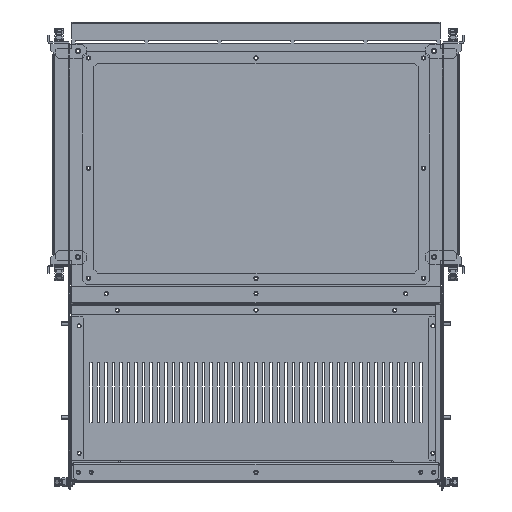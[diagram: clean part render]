
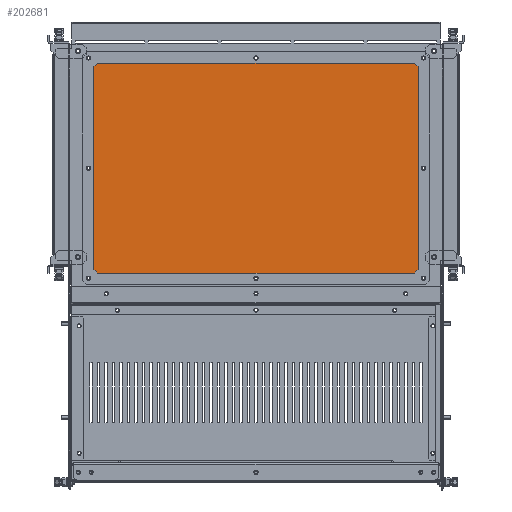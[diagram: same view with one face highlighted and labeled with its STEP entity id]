
A CAD part, top view. The second image highlights one B-rep face of the part: STEP entity #202681.
In plain terms, the highlighted planar face has unit normal (0, 0, 1).
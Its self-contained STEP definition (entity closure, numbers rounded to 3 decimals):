
#200526=CARTESIAN_POINT(' ',(-2.75,-147.,0.));
#200527=VERTEX_POINT(' ',#200526);
#200541=CARTESIAN_POINT(' ',(0.,-147.,0.));
#200546=DIRECTION(' ',(0.,-0.,1.));
#200551=DIRECTION(' ',(-1.,0.,0.));
#200556=AXIS2_PLACEMENT_3D(' ',#200541,#200546,#200551);
#200561=CIRCLE('',#200556,2.75);
#200566=CARTESIAN_POINT(' ',(2.75,-147.,0.));
#200567=VERTEX_POINT(' ',#200566);
#200571=EDGE_CURVE(' ',#200527,#200567,#200561,.T.);
#201666=CARTESIAN_POINT(' ',(0.,-147.,0.));
#201671=DIRECTION(' ',(0.,0.,1.));
#201676=DIRECTION(' ',(1.,0.,0.));
#201681=AXIS2_PLACEMENT_3D(' ',#201666,#201671,#201676);
#201686=CIRCLE('',#201681,2.75);
#201691=EDGE_CURVE(' ',#200567,#200527,#201686,.T.);
#201716=DIRECTION(' ',(-0.,-0.,1.));
#201721=CARTESIAN_POINT(' ',(231.5,-155.,0.));
#201726=DIRECTION(' ',(0.,1.,0.));
#201731=AXIS2_PLACEMENT_3D(' ',#201721,#201716,#201726);
#201736=PLANE('NONE',#201731);
#201741=CARTESIAN_POINT(' ',(226.5,155.,0.));
#201746=DIRECTION(' ',(-1.,0.,0.));
#201751=VECTOR(' ',#201746,1.);
#201756=LINE('',#201741,#201751);
#201761=CARTESIAN_POINT(' ',(226.5,155.,0.));
#201762=VERTEX_POINT(' ',#201761);
#201766=CARTESIAN_POINT(' ',(-226.5,155.,0.));
#201767=VERTEX_POINT(' ',#201766);
#201771=EDGE_CURVE(' ',#201762,#201767,#201756,.T.);
#201776=ORIENTED_EDGE(' ',*,*,#201771,.T.);
#201781=CARTESIAN_POINT(' ',(-226.5,155.,0.));
#201786=DIRECTION(' ',(-0.707,-0.707,0.));
#201791=VECTOR(' ',#201786,1.);
#201796=LINE('',#201781,#201791);
#201801=CARTESIAN_POINT(' ',(-231.5,150.,0.));
#201802=VERTEX_POINT(' ',#201801);
#201806=EDGE_CURVE(' ',#201767,#201802,#201796,.T.);
#201811=ORIENTED_EDGE(' ',*,*,#201806,.T.);
#201816=CARTESIAN_POINT(' ',(-231.5,150.,0.));
#201821=DIRECTION(' ',(0.,-1.,0.));
#201826=VECTOR(' ',#201821,1.);
#201831=LINE('',#201816,#201826);
#201836=CARTESIAN_POINT(' ',(-231.5,-150.,0.));
#201837=VERTEX_POINT(' ',#201836);
#201841=EDGE_CURVE(' ',#201802,#201837,#201831,.T.);
#201846=ORIENTED_EDGE(' ',*,*,#201841,.T.);
#201851=CARTESIAN_POINT(' ',(-231.5,-150.,0.));
#201856=DIRECTION(' ',(0.707,-0.707,0.));
#201861=VECTOR(' ',#201856,1.);
#201866=LINE('',#201851,#201861);
#201871=CARTESIAN_POINT(' ',(-226.5,-155.,0.));
#201872=VERTEX_POINT(' ',#201871);
#201876=EDGE_CURVE(' ',#201837,#201872,#201866,.T.);
#201881=ORIENTED_EDGE(' ',*,*,#201876,.T.);
#201886=CARTESIAN_POINT(' ',(-226.5,-155.,0.));
#201891=DIRECTION(' ',(1.,0.,0.));
#201896=VECTOR(' ',#201891,1.);
#201901=LINE('',#201886,#201896);
#201906=CARTESIAN_POINT(' ',(226.5,-155.,0.));
#201907=VERTEX_POINT(' ',#201906);
#201911=EDGE_CURVE(' ',#201872,#201907,#201901,.T.);
#201916=ORIENTED_EDGE(' ',*,*,#201911,.T.);
#201921=CARTESIAN_POINT(' ',(226.5,-155.,0.));
#201926=DIRECTION(' ',(0.707,0.707,0.));
#201931=VECTOR(' ',#201926,1.);
#201936=LINE('',#201921,#201931);
#201941=CARTESIAN_POINT(' ',(231.5,-150.,0.));
#201942=VERTEX_POINT(' ',#201941);
#201946=EDGE_CURVE(' ',#201907,#201942,#201936,.T.);
#201951=ORIENTED_EDGE(' ',*,*,#201946,.T.);
#201956=CARTESIAN_POINT(' ',(231.5,-150.,0.));
#201961=DIRECTION(' ',(0.,1.,0.));
#201966=VECTOR(' ',#201961,1.);
#201971=LINE('',#201956,#201966);
#201976=CARTESIAN_POINT(' ',(231.5,150.,0.));
#201977=VERTEX_POINT(' ',#201976);
#201981=EDGE_CURVE(' ',#201942,#201977,#201971,.T.);
#201986=ORIENTED_EDGE(' ',*,*,#201981,.T.);
#201991=CARTESIAN_POINT(' ',(231.5,150.,0.));
#201996=DIRECTION(' ',(-0.707,0.707,0.));
#202001=VECTOR(' ',#201996,1.);
#202006=LINE('',#201991,#202001);
#202011=EDGE_CURVE(' ',#201977,#201762,#202006,.T.);
#202016=ORIENTED_EDGE(' ',*,*,#202011,.T.);
#202021=EDGE_LOOP(' ',(#201776,#201811,#201846,#201881,#201916,#201951,#201986,#202016));
#202026=FACE_OUTER_BOUND(' ',#202021,.T.);
#202031=ORIENTED_EDGE(' ',*,*,#201691,.F.);
#202036=ORIENTED_EDGE(' ',*,*,#200571,.F.);
#202041=EDGE_LOOP(' ',(#202031,#202036));
#202046=FACE_BOUND(' ',#202041,.T.);
#202051=CARTESIAN_POINT(' ',(-223.5,0.,0.));
#202056=DIRECTION(' ',(0.,0.,1.));
#202061=DIRECTION(' ',(1.,0.,0.));
#202066=AXIS2_PLACEMENT_3D(' ',#202051,#202056,#202061);
#202071=CIRCLE('',#202066,2.75);
#202076=CARTESIAN_POINT(' ',(-220.75,0.,0.));
#202077=VERTEX_POINT(' ',#202076);
#202081=CARTESIAN_POINT(' ',(-226.25,0.,0.));
#202082=VERTEX_POINT(' ',#202081);
#202086=EDGE_CURVE(' ',#202077,#202082,#202071,.T.);
#202091=ORIENTED_EDGE(' ',*,*,#202086,.F.);
#202096=CARTESIAN_POINT(' ',(-223.5,0.,0.));
#202101=DIRECTION(' ',(0.,-0.,1.));
#202106=DIRECTION(' ',(-1.,0.,0.));
#202111=AXIS2_PLACEMENT_3D(' ',#202096,#202101,#202106);
#202116=CIRCLE('',#202111,2.75);
#202121=EDGE_CURVE(' ',#202082,#202077,#202116,.T.);
#202126=ORIENTED_EDGE(' ',*,*,#202121,.F.);
#202131=EDGE_LOOP(' ',(#202091,#202126));
#202136=FACE_BOUND(' ',#202131,.T.);
#202141=CARTESIAN_POINT(' ',(-223.5,-147.,0.));
#202146=DIRECTION(' ',(0.,0.,1.));
#202151=DIRECTION(' ',(1.,0.,0.));
#202156=AXIS2_PLACEMENT_3D(' ',#202141,#202146,#202151);
#202161=CIRCLE('',#202156,2.75);
#202166=CARTESIAN_POINT(' ',(-220.75,-147.,0.));
#202167=VERTEX_POINT(' ',#202166);
#202171=CARTESIAN_POINT(' ',(-226.25,-147.,0.));
#202172=VERTEX_POINT(' ',#202171);
#202176=EDGE_CURVE(' ',#202167,#202172,#202161,.T.);
#202181=ORIENTED_EDGE(' ',*,*,#202176,.F.);
#202186=CARTESIAN_POINT(' ',(-223.5,-147.,0.));
#202191=DIRECTION(' ',(0.,-0.,1.));
#202196=DIRECTION(' ',(-1.,0.,0.));
#202201=AXIS2_PLACEMENT_3D(' ',#202186,#202191,#202196);
#202206=CIRCLE('',#202201,2.75);
#202211=EDGE_CURVE(' ',#202172,#202167,#202206,.T.);
#202216=ORIENTED_EDGE(' ',*,*,#202211,.F.);
#202221=EDGE_LOOP(' ',(#202181,#202216));
#202226=FACE_BOUND(' ',#202221,.T.);
#202231=CARTESIAN_POINT(' ',(223.5,-147.,0.));
#202236=DIRECTION(' ',(0.,0.,1.));
#202241=DIRECTION(' ',(1.,0.,0.));
#202246=AXIS2_PLACEMENT_3D(' ',#202231,#202236,#202241);
#202251=CIRCLE('',#202246,2.75);
#202256=CARTESIAN_POINT(' ',(226.25,-147.,0.));
#202257=VERTEX_POINT(' ',#202256);
#202261=CARTESIAN_POINT(' ',(220.75,-147.,0.));
#202262=VERTEX_POINT(' ',#202261);
#202266=EDGE_CURVE(' ',#202257,#202262,#202251,.T.);
#202271=ORIENTED_EDGE(' ',*,*,#202266,.F.);
#202276=CARTESIAN_POINT(' ',(223.5,-147.,0.));
#202281=DIRECTION(' ',(0.,-0.,1.));
#202286=DIRECTION(' ',(-1.,0.,0.));
#202291=AXIS2_PLACEMENT_3D(' ',#202276,#202281,#202286);
#202296=CIRCLE('',#202291,2.75);
#202301=EDGE_CURVE(' ',#202262,#202257,#202296,.T.);
#202306=ORIENTED_EDGE(' ',*,*,#202301,.F.);
#202311=EDGE_LOOP(' ',(#202271,#202306));
#202316=FACE_BOUND(' ',#202311,.T.);
#202321=CARTESIAN_POINT(' ',(223.5,147.,0.));
#202326=DIRECTION(' ',(0.,0.,1.));
#202331=DIRECTION(' ',(1.,0.,0.));
#202336=AXIS2_PLACEMENT_3D(' ',#202321,#202326,#202331);
#202341=CIRCLE('',#202336,2.75);
#202346=CARTESIAN_POINT(' ',(226.25,147.,0.));
#202347=VERTEX_POINT(' ',#202346);
#202351=CARTESIAN_POINT(' ',(220.75,147.,0.));
#202352=VERTEX_POINT(' ',#202351);
#202356=EDGE_CURVE(' ',#202347,#202352,#202341,.T.);
#202361=ORIENTED_EDGE(' ',*,*,#202356,.F.);
#202366=CARTESIAN_POINT(' ',(223.5,147.,0.));
#202371=DIRECTION(' ',(0.,-0.,1.));
#202376=DIRECTION(' ',(-1.,0.,0.));
#202381=AXIS2_PLACEMENT_3D(' ',#202366,#202371,#202376);
#202386=CIRCLE('',#202381,2.75);
#202391=EDGE_CURVE(' ',#202352,#202347,#202386,.T.);
#202396=ORIENTED_EDGE(' ',*,*,#202391,.F.);
#202401=EDGE_LOOP(' ',(#202361,#202396));
#202406=FACE_BOUND(' ',#202401,.T.);
#202411=CARTESIAN_POINT(' ',(0.,147.,0.));
#202416=DIRECTION(' ',(0.,0.,1.));
#202421=DIRECTION(' ',(1.,0.,0.));
#202426=AXIS2_PLACEMENT_3D(' ',#202411,#202416,#202421);
#202431=CIRCLE('',#202426,2.75);
#202436=CARTESIAN_POINT(' ',(2.75,147.,0.));
#202437=VERTEX_POINT(' ',#202436);
#202441=CARTESIAN_POINT(' ',(-2.75,147.,0.));
#202442=VERTEX_POINT(' ',#202441);
#202446=EDGE_CURVE(' ',#202437,#202442,#202431,.T.);
#202451=ORIENTED_EDGE(' ',*,*,#202446,.F.);
#202456=CARTESIAN_POINT(' ',(0.,147.,0.));
#202461=DIRECTION(' ',(0.,-0.,1.));
#202466=DIRECTION(' ',(-1.,0.,0.));
#202471=AXIS2_PLACEMENT_3D(' ',#202456,#202461,#202466);
#202476=CIRCLE('',#202471,2.75);
#202481=EDGE_CURVE(' ',#202442,#202437,#202476,.T.);
#202486=ORIENTED_EDGE(' ',*,*,#202481,.F.);
#202491=EDGE_LOOP(' ',(#202451,#202486));
#202496=FACE_BOUND(' ',#202491,.T.);
#202501=CARTESIAN_POINT(' ',(-223.5,147.,0.));
#202506=DIRECTION(' ',(0.,0.,1.));
#202511=DIRECTION(' ',(1.,0.,0.));
#202516=AXIS2_PLACEMENT_3D(' ',#202501,#202506,#202511);
#202521=CIRCLE('',#202516,2.75);
#202526=CARTESIAN_POINT(' ',(-220.75,147.,0.));
#202527=VERTEX_POINT(' ',#202526);
#202531=CARTESIAN_POINT(' ',(-226.25,147.,0.));
#202532=VERTEX_POINT(' ',#202531);
#202536=EDGE_CURVE(' ',#202527,#202532,#202521,.T.);
#202541=ORIENTED_EDGE(' ',*,*,#202536,.F.);
#202546=CARTESIAN_POINT(' ',(-223.5,147.,0.));
#202551=DIRECTION(' ',(0.,-0.,1.));
#202556=DIRECTION(' ',(-1.,0.,0.));
#202561=AXIS2_PLACEMENT_3D(' ',#202546,#202551,#202556);
#202566=CIRCLE('',#202561,2.75);
#202571=EDGE_CURVE(' ',#202532,#202527,#202566,.T.);
#202576=ORIENTED_EDGE(' ',*,*,#202571,.F.);
#202581=EDGE_LOOP(' ',(#202541,#202576));
#202586=FACE_BOUND(' ',#202581,.T.);
#202591=CARTESIAN_POINT(' ',(223.5,0.,0.));
#202596=DIRECTION(' ',(0.,0.,1.));
#202601=DIRECTION(' ',(1.,0.,0.));
#202606=AXIS2_PLACEMENT_3D(' ',#202591,#202596,#202601);
#202611=CIRCLE('',#202606,2.75);
#202616=CARTESIAN_POINT(' ',(226.25,0.,0.));
#202617=VERTEX_POINT(' ',#202616);
#202621=CARTESIAN_POINT(' ',(220.75,0.,0.));
#202622=VERTEX_POINT(' ',#202621);
#202626=EDGE_CURVE(' ',#202617,#202622,#202611,.T.);
#202631=ORIENTED_EDGE(' ',*,*,#202626,.F.);
#202636=CARTESIAN_POINT(' ',(223.5,0.,0.));
#202641=DIRECTION(' ',(0.,-0.,1.));
#202646=DIRECTION(' ',(-1.,0.,0.));
#202651=AXIS2_PLACEMENT_3D(' ',#202636,#202641,#202646);
#202656=CIRCLE('',#202651,2.75);
#202661=EDGE_CURVE(' ',#202622,#202617,#202656,.T.);
#202666=ORIENTED_EDGE(' ',*,*,#202661,.F.);
#202671=EDGE_LOOP(' ',(#202631,#202666));
#202676=FACE_BOUND(' ',#202671,.T.);
#202681=ADVANCED_FACE('NONE',(#202026,#202046,#202136,#202226,#202316,#202406,#202496,#202586,#202676),#201736,.T.);
